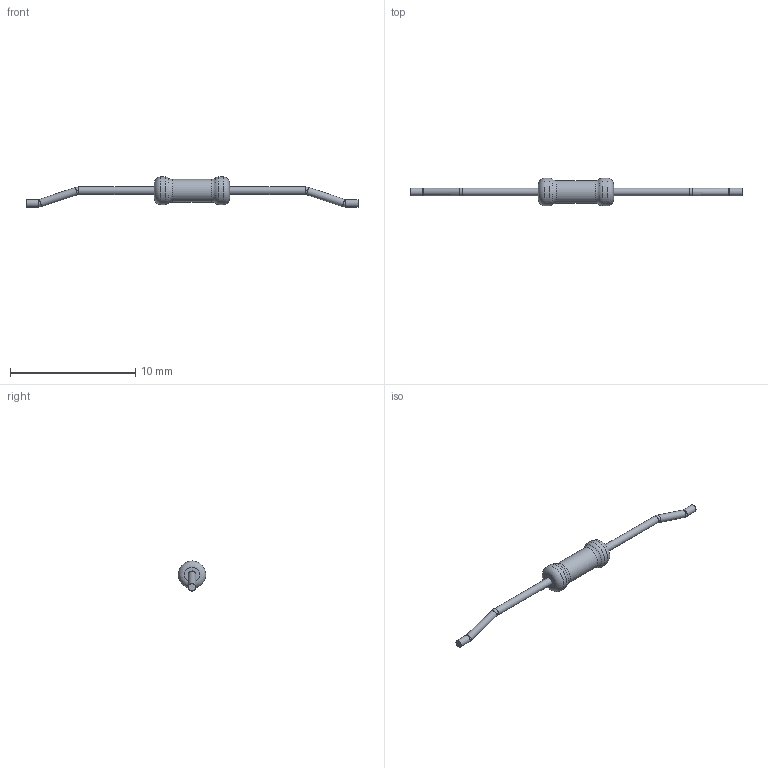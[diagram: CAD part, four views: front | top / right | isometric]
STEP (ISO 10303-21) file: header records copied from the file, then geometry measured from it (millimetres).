
FILE_DESCRIPTION(('STEP AP203'), '1');
FILE_NAME('C2-33苂-0.125(3)', '', ('UNSPECIFIED'), ('UNSPECIFIED'), 'ASCON STEP Converter 1.6', 'ASCON Math Kernel', '');
FILE_SCHEMA(('CONFIG_CONTROL_DESIGN'));
Length unit declared in the file: millimetre
Bounding box: 26.5 x 2.2 x 2.4 mm (x, y, z)
Volume: 23.4 mm3; surface area: 81 mm2
Topology: 1 solids, 1 shells, 25 faces, 47 edges, 26 vertices
Faces by surface type: cylinder 9, torus 8, plane 4, bspline 4
Full cylindrical faces by diameter (mm): 0.6 x6, 1.8 x1, 2.2 x2
Entity records: 878 total; most frequent: CARTESIAN_POINT 222, DIRECTION 88, ORIENTED_EDGE 60, AXIS2_PLACEMENT_3D 44, EDGE_LOOP 44, FACE_OUTER_BOUND 30, EDGE_CURVE 30, COLOUR_RGB 26
